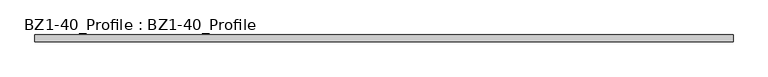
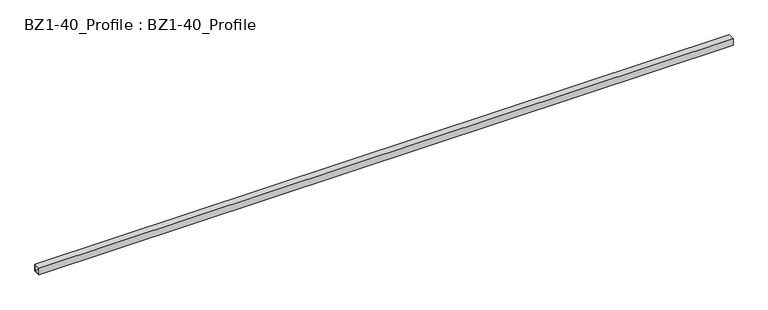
"""IFC4 building model written with IfcOpenShell, lengths in millimetres: beam geometry, BZ1-40_Profile : BZ1-40_Profile."""

from ifc_helpers import new_model, si_unit, frame, origin, place, context, project, spatial, polyline, outline, extrude, source, transform, mapped, element, save


def bz1_40_profile_bz1_40_profile_d9f1aa51(model_context):
    return source(origin(), model_context, "Body", "SweptSolid", [
        extrude(outline(polyline([(-20.0, 20.0), (20.0, 20.0), (20.0, -20.0), (-20.0, -20.0), (-20.0, 20.0)]), holes=[polyline([(-16.0, 16.0), (-16.0, -16.0), (16.0, -16.0), (16.0, 16.0), (-16.0, 16.0)])]), frame((-2042.5, 0.0, 0.0), z_axis=(1.0, 0.0, 0.0), x_axis=(0.0, 1.0, 0.0)), (0.0, 0.0, 1.0), 4085.0),
    ])


if __name__ == "__main__":
    model = new_model("IFC4")
    model_context = context("Model", 3, world=origin())
    ifc_project = project(units=[si_unit("LENGTHUNIT", "METRE", prefix="MILLI")], contexts=[model_context])
    site = spatial("IfcSite", under=ifc_project)
    building = spatial("IfcBuilding", under=site)
    placement = place(None, origin())
    bz1_40_profile_bz1_40_profile_shape = bz1_40_profile_bz1_40_profile_d9f1aa51(model_context)
    element("IfcBeam", 1, ObjectType="BZ1-40_Profile : BZ1-40_Profile", at=placement, inside=building, context=model_context, shape_type="MappedRepresentation", body=[
        mapped(bz1_40_profile_bz1_40_profile_shape, transform((0.0, 0.0, 0.0), x_axis=(1.0, 0.0, 0.0), y_axis=(0.0, 1.0, 0.0), z_axis=(0.0, 0.0, 1.0))),
    ])
    save(model, "model.ifc")
